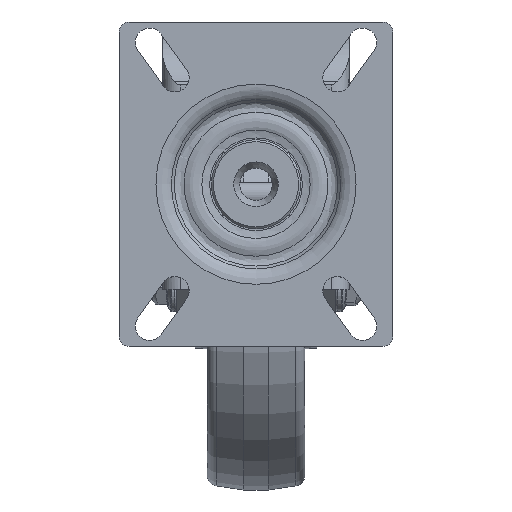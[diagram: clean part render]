
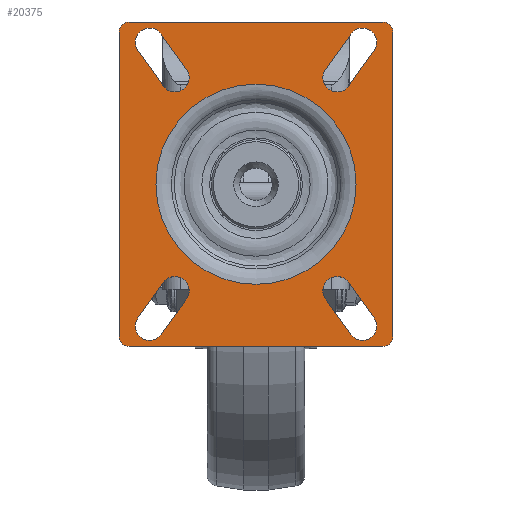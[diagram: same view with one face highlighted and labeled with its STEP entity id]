
A CAD part, top view. The second image highlights one B-rep face of the part: STEP entity #20375.
In plain terms, the highlighted planar face has unit normal (0, 0, 1).
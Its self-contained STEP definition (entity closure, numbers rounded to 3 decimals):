
#19302=CARTESIAN_POINT('',(0.,49.347,0.));
#19303=VERTEX_POINT('',#19302);
#19304=CARTESIAN_POINT('',(0.,0.0,0.));
#19305=DIRECTION('',(0.0,0.0,1.0));
#19306=DIRECTION('',(0.0,1.0,0.0));
#19307=AXIS2_PLACEMENT_3D('',#19304,#19305,#19306);
#19308=CIRCLE('',#19307,49.347);
#19309=EDGE_CURVE('',#19303,#19303,#19308,.T.);
#19577=CARTESIAN_POINT('',(62.5,80.,0.));
#19578=VERTEX_POINT('',#19577);
#19579=CARTESIAN_POINT('',(67.5,75.,0.));
#19580=VERTEX_POINT('',#19579);
#19581=CARTESIAN_POINT('',(62.5,75.,0.));
#19582=DIRECTION('',(0.0,0.0,-1.));
#19583=DIRECTION('',(0.707,0.707,0.0));
#19584=AXIS2_PLACEMENT_3D('',#19581,#19582,#19583);
#19585=CIRCLE('',#19584,5.);
#19586=EDGE_CURVE('',#19578,#19580,#19585,.T.);
#19619=CARTESIAN_POINT('',(-67.5,75.,0.));
#19620=VERTEX_POINT('',#19619);
#19621=CARTESIAN_POINT('',(-62.5,80.,0.));
#19622=VERTEX_POINT('',#19621);
#19623=CARTESIAN_POINT('',(-62.5,75.,0.));
#19624=DIRECTION('',(0.0,0.0,-1.));
#19625=DIRECTION('',(-0.707,0.707,0.0));
#19626=AXIS2_PLACEMENT_3D('',#19623,#19624,#19625);
#19627=CIRCLE('',#19626,5.);
#19628=EDGE_CURVE('',#19620,#19622,#19627,.T.);
#19661=CARTESIAN_POINT('',(67.5,-75.,0.));
#19662=VERTEX_POINT('',#19661);
#19663=CARTESIAN_POINT('',(62.5,-80.,0.));
#19664=VERTEX_POINT('',#19663);
#19665=CARTESIAN_POINT('',(62.5,-75.,0.));
#19666=DIRECTION('',(0.0,0.0,-1.));
#19667=DIRECTION('',(0.707,-0.707,0.0));
#19668=AXIS2_PLACEMENT_3D('',#19665,#19666,#19667);
#19669=CIRCLE('',#19668,5.);
#19670=EDGE_CURVE('',#19662,#19664,#19669,.T.);
#19703=CARTESIAN_POINT('',(-62.5,-80.,0.));
#19704=VERTEX_POINT('',#19703);
#19705=CARTESIAN_POINT('',(-67.5,-75.,0.));
#19706=VERTEX_POINT('',#19705);
#19707=CARTESIAN_POINT('',(-62.5,-75.,0.));
#19708=DIRECTION('',(0.0,0.0,-1.));
#19709=DIRECTION('',(-0.707,-0.707,0.0));
#19710=AXIS2_PLACEMENT_3D('',#19707,#19708,#19709);
#19711=CIRCLE('',#19710,5.);
#19712=EDGE_CURVE('',#19704,#19706,#19711,.T.);
#19745=CARTESIAN_POINT('',(-58.196,65.931,0.));
#19746=VERTEX_POINT('',#19745);
#19747=CARTESIAN_POINT('',(-46.804,74.069,0.));
#19748=VERTEX_POINT('',#19747);
#19749=CARTESIAN_POINT('',(-52.5,70.,0.));
#19750=DIRECTION('',(0.0,0.0,-1.0));
#19751=DIRECTION('',(0.0,-1.0,0.0));
#19752=AXIS2_PLACEMENT_3D('',#19749,#19750,#19751);
#19753=CIRCLE('',#19752,7.);
#19754=EDGE_CURVE('',#19746,#19748,#19753,.T.);
#19798=CARTESIAN_POINT('',(-45.696,48.431,0.));
#19799=VERTEX_POINT('',#19798);
#19806=CARTESIAN_POINT('',(-34.304,56.569,0.));
#19807=VERTEX_POINT('',#19806);
#19808=CARTESIAN_POINT('',(-40.,52.5,0.));
#19809=DIRECTION('',(0.0,0.0,-1.0));
#19810=DIRECTION('',(0.0,-1.0,0.0));
#19811=AXIS2_PLACEMENT_3D('',#19808,#19809,#19810);
#19812=CIRCLE('',#19811,7.);
#19813=EDGE_CURVE('',#19807,#19799,#19812,.T.);
#19840=CARTESIAN_POINT('',(46.804,-74.069,0.));
#19841=VERTEX_POINT('',#19840);
#19848=CARTESIAN_POINT('',(58.196,-65.931,0.));
#19849=VERTEX_POINT('',#19848);
#19850=CARTESIAN_POINT('',(52.5,-70.,0.));
#19851=DIRECTION('',(0.0,0.0,-1.0));
#19852=DIRECTION('',(0.0,-1.0,0.0));
#19853=AXIS2_PLACEMENT_3D('',#19850,#19851,#19852);
#19854=CIRCLE('',#19853,7.);
#19855=EDGE_CURVE('',#19849,#19841,#19854,.T.);
#19871=CARTESIAN_POINT('',(34.304,-56.569,0.));
#19872=VERTEX_POINT('',#19871);
#19873=CARTESIAN_POINT('',(45.696,-48.431,0.));
#19874=VERTEX_POINT('',#19873);
#19875=CARTESIAN_POINT('',(40.,-52.5,0.));
#19876=DIRECTION('',(0.0,0.0,-1.0));
#19877=DIRECTION('',(0.0,-1.0,0.0));
#19878=AXIS2_PLACEMENT_3D('',#19875,#19876,#19877);
#19879=CIRCLE('',#19878,7.);
#19880=EDGE_CURVE('',#19872,#19874,#19879,.T.);
#19913=CARTESIAN_POINT('',(46.804,74.069,0.));
#19914=VERTEX_POINT('',#19913);
#19915=CARTESIAN_POINT('',(58.196,65.931,0.));
#19916=VERTEX_POINT('',#19915);
#19917=CARTESIAN_POINT('',(52.5,70.,0.));
#19918=DIRECTION('',(0.0,0.0,-1.0));
#19919=DIRECTION('',(0.0,-1.0,0.0));
#19920=AXIS2_PLACEMENT_3D('',#19917,#19918,#19919);
#19921=CIRCLE('',#19920,7.);
#19922=EDGE_CURVE('',#19914,#19916,#19921,.T.);
#19966=CARTESIAN_POINT('',(34.304,56.569,0.));
#19967=VERTEX_POINT('',#19966);
#19974=CARTESIAN_POINT('',(45.696,48.431,0.));
#19975=VERTEX_POINT('',#19974);
#19976=CARTESIAN_POINT('',(40.,52.5,0.));
#19977=DIRECTION('',(0.0,0.0,-1.0));
#19978=DIRECTION('',(0.0,-1.0,0.0));
#19979=AXIS2_PLACEMENT_3D('',#19976,#19977,#19978);
#19980=CIRCLE('',#19979,7.);
#19981=EDGE_CURVE('',#19975,#19967,#19980,.T.);
#20008=CARTESIAN_POINT('',(-58.196,-65.931,0.));
#20009=VERTEX_POINT('',#20008);
#20016=CARTESIAN_POINT('',(-46.804,-74.069,0.));
#20017=VERTEX_POINT('',#20016);
#20018=CARTESIAN_POINT('',(-52.5,-70.,0.));
#20019=DIRECTION('',(0.0,0.0,-1.0));
#20020=DIRECTION('',(0.0,-1.0,0.0));
#20021=AXIS2_PLACEMENT_3D('',#20018,#20019,#20020);
#20022=CIRCLE('',#20021,7.);
#20023=EDGE_CURVE('',#20017,#20009,#20022,.T.);
#20039=CARTESIAN_POINT('',(-45.696,-48.431,0.));
#20040=VERTEX_POINT('',#20039);
#20041=CARTESIAN_POINT('',(-34.304,-56.569,0.));
#20042=VERTEX_POINT('',#20041);
#20043=CARTESIAN_POINT('',(-40.,-52.5,0.));
#20044=DIRECTION('',(0.0,0.0,-1.0));
#20045=DIRECTION('',(0.0,-1.0,0.0));
#20046=AXIS2_PLACEMENT_3D('',#20043,#20044,#20045);
#20047=CIRCLE('',#20046,7.);
#20048=EDGE_CURVE('',#20040,#20042,#20047,.T.);
#20149=CARTESIAN_POINT('',(-34.304,-56.569,0.));
#20150=DIRECTION('',(-0.581,-0.814,0.0));
#20151=VECTOR('',#20150,21.506);
#20152=LINE('',#20149,#20151);
#20153=EDGE_CURVE('',#20042,#20017,#20152,.T.);
#20171=CARTESIAN_POINT('',(-58.196,-65.931,0.));
#20172=DIRECTION('',(0.581,0.814,0.0));
#20173=VECTOR('',#20172,21.506);
#20174=LINE('',#20171,#20173);
#20175=EDGE_CURVE('',#20009,#20040,#20174,.T.);
#20193=CARTESIAN_POINT('',(58.196,65.931,0.));
#20194=DIRECTION('',(-0.581,-0.814,0.0));
#20195=VECTOR('',#20194,21.506);
#20196=LINE('',#20193,#20195);
#20197=EDGE_CURVE('',#19916,#19975,#20196,.T.);
#20215=CARTESIAN_POINT('',(34.304,56.569,0.));
#20216=DIRECTION('',(0.581,0.814,0.0));
#20217=VECTOR('',#20216,21.506);
#20218=LINE('',#20215,#20217);
#20219=EDGE_CURVE('',#19967,#19914,#20218,.T.);
#20237=CARTESIAN_POINT('',(46.804,-74.069,0.));
#20238=DIRECTION('',(-0.581,0.814,0.0));
#20239=VECTOR('',#20238,21.506);
#20240=LINE('',#20237,#20239);
#20241=EDGE_CURVE('',#19841,#19872,#20240,.T.);
#20259=CARTESIAN_POINT('',(45.696,-48.431,0.));
#20260=DIRECTION('',(0.581,-0.814,0.0));
#20261=VECTOR('',#20260,21.506);
#20262=LINE('',#20259,#20261);
#20263=EDGE_CURVE('',#19874,#19849,#20262,.T.);
#20281=CARTESIAN_POINT('',(-46.804,74.069,0.));
#20282=DIRECTION('',(0.581,-0.814,0.0));
#20283=VECTOR('',#20282,21.506);
#20284=LINE('',#20281,#20283);
#20285=EDGE_CURVE('',#19748,#19807,#20284,.T.);
#20303=CARTESIAN_POINT('',(-45.696,48.431,0.));
#20304=DIRECTION('',(-0.581,0.814,0.0));
#20305=VECTOR('',#20304,21.506);
#20306=LINE('',#20303,#20305);
#20307=EDGE_CURVE('',#19799,#19746,#20306,.T.);
#20313=CARTESIAN_POINT('',(0.,50.923,0.));
#20314=DIRECTION('',(0.0,0.0,1.0));
#20315=DIRECTION('',(1.0,0.0,0.0));
#20316=AXIS2_PLACEMENT_3D('',#20313,#20314,#20315);
#20317=PLANE('',#20316);
#20318=ORIENTED_EDGE('',*,*,#19712,.F.);
#20319=CARTESIAN_POINT('',(62.5,-80.,0.));
#20320=DIRECTION('',(-1.0,0.0,0.0));
#20321=VECTOR('',#20320,125.);
#20322=LINE('',#20319,#20321);
#20323=EDGE_CURVE('',#19664,#19704,#20322,.T.);
#20324=ORIENTED_EDGE('',*,*,#20323,.F.);
#20325=ORIENTED_EDGE('',*,*,#19670,.F.);
#20326=CARTESIAN_POINT('',(67.5,75.,0.));
#20327=DIRECTION('',(0.0,-1.0,0.0));
#20328=VECTOR('',#20327,150.);
#20329=LINE('',#20326,#20328);
#20330=EDGE_CURVE('',#19580,#19662,#20329,.T.);
#20331=ORIENTED_EDGE('',*,*,#20330,.F.);
#20332=ORIENTED_EDGE('',*,*,#19586,.F.);
#20333=CARTESIAN_POINT('',(-62.5,80.,0.));
#20334=DIRECTION('',(1.0,0.0,0.0));
#20335=VECTOR('',#20334,125.);
#20336=LINE('',#20333,#20335);
#20337=EDGE_CURVE('',#19622,#19578,#20336,.T.);
#20338=ORIENTED_EDGE('',*,*,#20337,.F.);
#20339=ORIENTED_EDGE('',*,*,#19628,.F.);
#20340=CARTESIAN_POINT('',(-67.5,-75.,0.));
#20341=DIRECTION('',(0.0,1.0,0.0));
#20342=VECTOR('',#20341,150.);
#20343=LINE('',#20340,#20342);
#20344=EDGE_CURVE('',#19706,#19620,#20343,.T.);
#20345=ORIENTED_EDGE('',*,*,#20344,.F.);
#20346=EDGE_LOOP('',(#20318,#20324,#20325,#20331,#20332,#20338,#20339,#20345));
#20347=FACE_OUTER_BOUND('',#20346,.T.);
#20348=ORIENTED_EDGE('',*,*,#20153,.T.);
#20349=ORIENTED_EDGE('',*,*,#20023,.T.);
#20350=ORIENTED_EDGE('',*,*,#20175,.T.);
#20351=ORIENTED_EDGE('',*,*,#20048,.T.);
#20352=EDGE_LOOP('',(#20348,#20349,#20350,#20351));
#20353=FACE_BOUND('',#20352,.T.);
#20354=ORIENTED_EDGE('',*,*,#19981,.T.);
#20355=ORIENTED_EDGE('',*,*,#20219,.T.);
#20356=ORIENTED_EDGE('',*,*,#19922,.T.);
#20357=ORIENTED_EDGE('',*,*,#20197,.T.);
#20358=EDGE_LOOP('',(#20354,#20355,#20356,#20357));
#20359=FACE_BOUND('',#20358,.T.);
#20360=ORIENTED_EDGE('',*,*,#19880,.T.);
#20361=ORIENTED_EDGE('',*,*,#20263,.T.);
#20362=ORIENTED_EDGE('',*,*,#19855,.T.);
#20363=ORIENTED_EDGE('',*,*,#20241,.T.);
#20364=EDGE_LOOP('',(#20360,#20361,#20362,#20363));
#20365=FACE_BOUND('',#20364,.T.);
#20366=ORIENTED_EDGE('',*,*,#19813,.T.);
#20367=ORIENTED_EDGE('',*,*,#20307,.T.);
#20368=ORIENTED_EDGE('',*,*,#19754,.T.);
#20369=ORIENTED_EDGE('',*,*,#20285,.T.);
#20370=EDGE_LOOP('',(#20366,#20367,#20368,#20369));
#20371=FACE_BOUND('',#20370,.T.);
#20372=ORIENTED_EDGE('',*,*,#19309,.F.);
#20373=EDGE_LOOP('',(#20372));
#20374=FACE_BOUND('',#20373,.T.);
#20375=ADVANCED_FACE('',(#20347,#20353,#20359,#20365,#20371,#20374),#20317,.T.);
